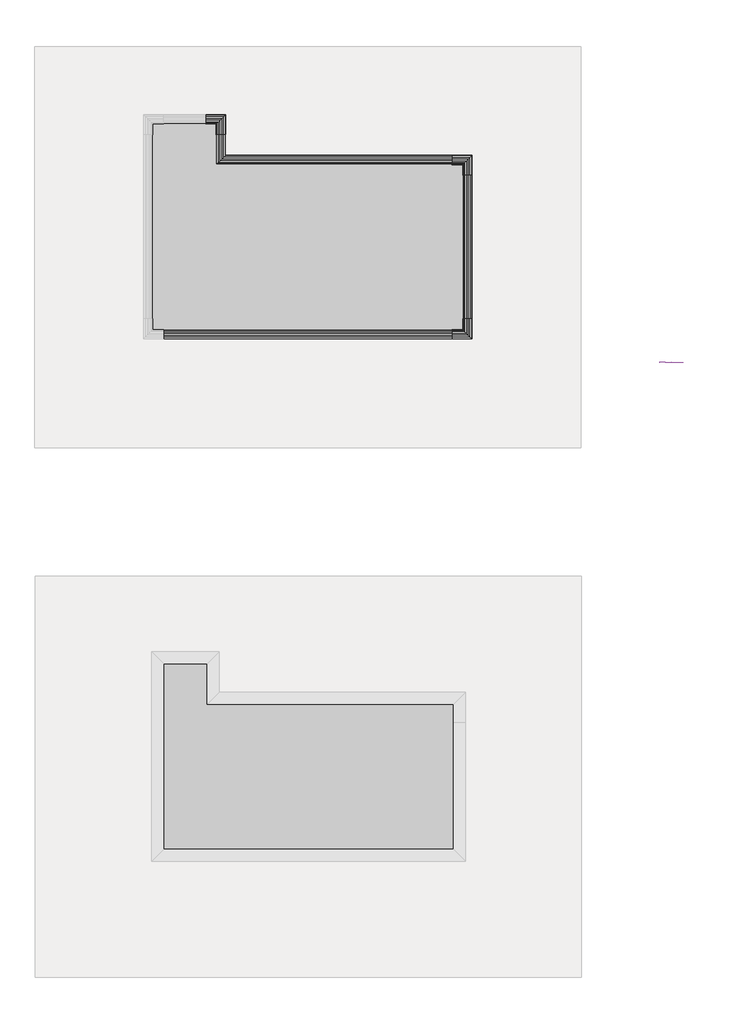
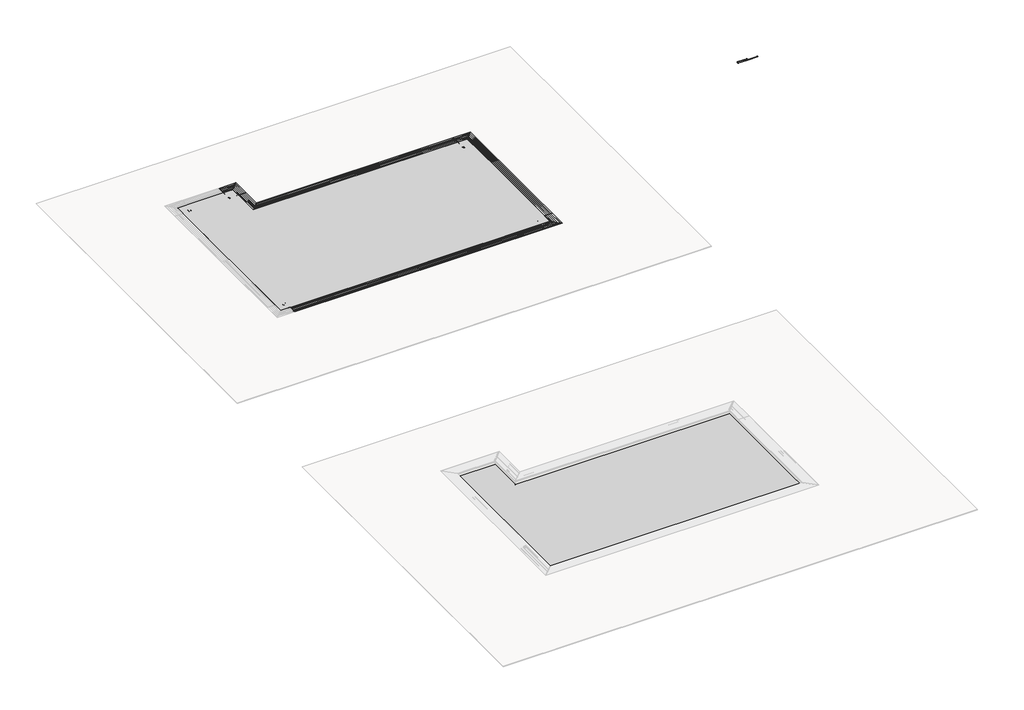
# One storey, part 7 of 8: 26 proxies.
"""IFC4 building model written with IfcOpenShell, lengths in millimetres."""

from ifc_helpers import new_model, si_unit, point, frame, frame_2d, origin, place, context, project, spatial, polyline, circle_curve, ellipse_curve, trimmed, segment, composite_curve, outline, extrude, faceted_brep, transform, mapped, element, save
from ifc_brep_helpers import plane_surface, revolved_surface, advanced_brep
from components import agua_piscina_11_agua_piscina_6_506d59ae, agua_piscina_7_agua_piscina_6_53fddf8e, roca_polar_33x3cm_504bcb03, roca_polar_33x4cm_2db79b40, roca_polar_33x4cm_158b5dbd, roca_polar_33x4cm_2f643e7a, roca_polar_33x4cm_c740a98f, roca_polar_33x4cm_f0a25715, roca_polar_33x4cm_b073b66c, roca_polar_33x4cm_9eef97b5, roca_polar_33x4cm_217610f2, roca_polar_4x4cm_b0f7cce5, roca_polar_angulo_33x33cm_rejilla_24_5x33cm_6b5bcf94

model = new_model("IFC4")

# Units and contexts
model_context = context("Model", 3, world=origin())
ifc_project = project(units=[si_unit("LENGTHUNIT", "METRE", prefix="MILLI")], contexts=[model_context])

# Site, building, storey
site = spatial("IfcSite", under=ifc_project)
building = spatial("IfcBuilding", under=site)
storey = spatial("IfcBuildingStorey", under=building, Name="EXAGRES_Serie ROCA POLAR_Piscinas_ejemplo", Elevation=14000.0)

# Proxies
placement = place(None, origin())
element("IfcBuildingElementProxy", 1, Name="Wall Sweeps", at=placement, inside=storey, context=model_context, shape_type="SweptSolid", body=[
    extrude(outline(polyline([(-5317.8185886, 13800.0), (-5127.8185886, 13800.0), (-5127.8185886, 14000.0), (-5097.8185886, 14000.0), (-5097.8185886, 13750.0), (-5347.8185886, 13750.0), (-5347.8185886, 14000.0), (-5317.8185886, 14000.0), (-5317.8185886, 13800.0)])), frame((14265.8202897, 0.0, 0.0), z_axis=(1.0, 0.0, 0.0), x_axis=(0.0, 1.0, 0.0)), (0.0, 0.0, 1.0), 6752.2),
])
element("IfcBuildingElementProxy", 2, Name="Wall Sweeps", at=placement, inside=storey, context=model_context, shape_type="AdvancedBrep", body=[
    advanced_brep(
    [(14721.9202897, -5147.8185886, 14015.0), (14716.9202897, -5152.8185886, 14015.0), (14701.9202897, -5167.8185886, 14000.0), (14641.9202897, -5227.8185886, 14000.0), (14626.9202897, -5242.8185886, 14015.0), (14621.9202897, -5247.8185886, 14015.0), (14606.9202897, -5262.8185886, 14000.0), (14546.4202897, -5323.3185886, 14000.0), (14546.4202897, -5323.3185886, 14011.0), (14538.9202897, -5330.8185886, 14011.0), (14538.9202897, -5330.8185886, 14000.0), (14526.9202897, -5342.8185886, 14000.0), (14526.9202897, -5342.8185886, 14015.0), (14533.4202897, -5336.3185886, 14030.0), (14572.9202897, -5296.8185886, 14030.0), (14571.9202897, -5297.8185886, 14019.0), (14566.9202897, -5302.8185886, 14019.0), (14566.9202897, -5302.8185886, 14011.0), (14586.9202897, -5282.8185886, 14011.0), (14586.9202897, -5282.8185886, 14019.0), (14581.9202897, -5287.8185886, 14019.0), (14580.9202897, -5288.8185886, 14030.0), (14620.4202897, -5249.3185886, 14030.0), (14620.4202897, -5249.3185886, 14025.0), (14628.4202897, -5241.3185886, 14025.0), (14628.4202897, -5241.3185886, 14030.0), (14667.9202897, -5201.8185886, 14030.0), (14666.9202897, -5202.8185886, 14019.0), (14661.9202897, -5207.8185886, 14019.0), (14661.9202897, -5207.8185886, 14011.0), (14681.9202897, -5187.8185886, 14011.0), (14681.9202897, -5187.8185886, 14019.0), (14676.9202897, -5192.8185886, 14019.0), (14675.9202897, -5193.8185886, 14030.0), (14715.4202897, -5154.3185886, 14030.0), (14715.4202897, -5154.3185886, 14025.0), (14723.4202897, -5146.3185886, 14025.0), (14723.4202897, -5146.3185886, 14030.0), (14762.9202897, -5106.8185886, 14030.0), (14762.9202897, -5106.8185886, 14019.0), (14744.4202897, -5125.3185886, 14019.0), (14744.4202897, -5125.3185886, 14011.0), (14766.9202897, -5102.8185886, 14011.0), (14766.9202897, -5102.8185886, 14000.0), (14736.9202897, -5132.8185886, 14000.0), (21018.0202897, -5147.8185886, 14015.0), (21018.0202897, -5132.8185886, 14000.0), (21018.0202897, -5102.8185886, 14000.0), (21018.0202897, -5102.8185886, 14011.0), (21018.0202897, -5125.3185886, 14011.0), (21018.0202897, -5125.3185886, 14019.0), (21018.0202897, -5106.8185886, 14019.0), (21018.0202897, -5106.8185886, 14030.0), (21018.0202897, -5146.3185886, 14030.0), (21018.0202897, -5146.3185886, 14025.0), (21018.0202897, -5154.3185886, 14025.0), (21018.0202897, -5154.3185886, 14030.0), (21018.0202897, -5193.8185886, 14030.0), (21018.0202897, -5192.8185886, 14019.0), (21018.0202897, -5187.8185886, 14019.0), (21018.0202897, -5187.8185886, 14011.0), (21018.0202897, -5207.8185886, 14011.0), (21018.0202897, -5207.8185886, 14019.0), (21018.0202897, -5202.8185886, 14019.0), (21018.0202897, -5201.8185886, 14030.0), (21018.0202897, -5241.3185886, 14030.0), (21018.0202897, -5241.3185886, 14025.0), (21018.0202897, -5249.3185886, 14025.0), (21018.0202897, -5249.3185886, 14030.0), (21018.0202897, -5288.8185886, 14030.0), (21018.0202897, -5287.8185886, 14019.0), (21018.0202897, -5282.8185886, 14019.0), (21018.0202897, -5282.8185886, 14011.0), (21018.0202897, -5302.8185886, 14011.0), (21018.0202897, -5302.8185886, 14019.0), (21018.0202897, -5297.8185886, 14019.0), (21018.0202897, -5296.8185886, 14030.0), (21018.0202897, -5336.3185886, 14030.0), (21018.0202897, -5342.8185886, 14015.0), (21018.0202897, -5342.8185886, 14000.0), (21018.0202897, -5330.8185886, 14000.0), (21018.0202897, -5330.8185886, 14011.0), (21018.0202897, -5323.3185886, 14011.0), (21018.0202897, -5323.3185886, 14000.0), (21018.0202897, -5262.8185886, 14000.0), (21018.0202897, -5247.8185886, 14015.0), (21018.0202897, -5242.8185886, 14015.0), (21018.0202897, -5227.8185886, 14000.0), (21018.0202897, -5167.8185886, 14000.0), (21018.0202897, -5152.8185886, 14015.0)],
    [
        (0, 1),
        (1, 2, ellipse_curve(frame((14716.9202897, -5152.8185886, 14000.0), z_axis=(0.7071067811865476, -0.7071067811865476, 0.0), x_axis=(0.7071067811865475, 0.7071067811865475, 0.0)), 21.2132034, 15.0)),
        (2, 3),
        (3, 4, ellipse_curve(frame((14626.9202897, -5242.8185886, 14000.0), z_axis=(0.7071067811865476, -0.7071067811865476, 0.0), x_axis=(0.7071067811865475, 0.7071067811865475, 0.0)), 21.2132034, 15.0)),
        (4, 5),
        (5, 6, ellipse_curve(frame((14621.9202897, -5247.8185886, 14000.0), z_axis=(0.7071067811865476, -0.7071067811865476, 0.0), x_axis=(0.7071067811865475, 0.7071067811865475, 0.0)), 21.2132034, 15.0)),
        (6, 7),
        (7, 8),
        (8, 9, ellipse_curve(frame((14542.6702897, -5327.0685886, 14011.0), z_axis=(0.7071067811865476, -0.7071067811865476, 0.0), x_axis=(0.7071067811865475, 0.7071067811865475, 0.0)), 5.3033009, 3.75)),
        (9, 10),
        (10, 11),
        (11, 12),
        (12, 13),
        (13, 14),
        (14, 15),
        (15, 16),
        (16, 17),
        (17, 18),
        (18, 19),
        (19, 20),
        (20, 21),
        (21, 22),
        (22, 23),
        (23, 24),
        (24, 25),
        (25, 26),
        (26, 27),
        (27, 28),
        (28, 29),
        (29, 30),
        (30, 31),
        (31, 32),
        (32, 33),
        (33, 34),
        (34, 35),
        (35, 36),
        (36, 37),
        (37, 38),
        (38, 39),
        (39, 40),
        (40, 41),
        (41, 42),
        (42, 43),
        (43, 44),
        (44, 0, ellipse_curve(frame((14721.9202897, -5147.8185886, 14000.0), z_axis=(0.7071067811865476, -0.7071067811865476, 0.0), x_axis=(0.7071067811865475, 0.7071067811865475, 0.0)), 21.2132034, 15.0)),
        (45, 46, circle_curve(frame((21018.0202897, -5147.8185886, 14000.0), z_axis=(-1.0, 0.0, 0.0), x_axis=(0.0, 1.0, 0.0)), 15.0)),
        (46, 47),
        (47, 48),
        (48, 49),
        (49, 50),
        (50, 51),
        (51, 52),
        (52, 53),
        (53, 54),
        (54, 55),
        (55, 56),
        (56, 57),
        (57, 58),
        (58, 59),
        (59, 60),
        (60, 61),
        (61, 62),
        (62, 63),
        (63, 64),
        (64, 65),
        (65, 66),
        (66, 67),
        (67, 68),
        (68, 69),
        (69, 70),
        (70, 71),
        (71, 72),
        (72, 73),
        (73, 74),
        (74, 75),
        (75, 76),
        (76, 77),
        (77, 78),
        (78, 79),
        (79, 80),
        (80, 81),
        (81, 82, circle_curve(frame((21018.0202897, -5327.0685886, 14011.0), z_axis=(-1.0, 0.0, 0.0), x_axis=(0.0, 1.0, 0.0)), 3.75)),
        (82, 83),
        (83, 84),
        (84, 85, circle_curve(frame((21018.0202897, -5247.8185886, 14000.0), z_axis=(-1.0, 0.0, 0.0), x_axis=(0.0, 0.0, 1.0)), 15.0)),
        (85, 86),
        (86, 87, circle_curve(frame((21018.0202897, -5242.8185886, 14000.0), z_axis=(-1.0, 0.0, 0.0), x_axis=(0.0, 1.0, 0.0)), 15.0)),
        (87, 88),
        (88, 89, circle_curve(frame((21018.0202897, -5152.8185886, 14000.0), z_axis=(-1.0, 0.0, 0.0), x_axis=(0.0, 0.0, 1.0)), 15.0)),
        (89, 45),
        (0, 45),
        (89, 1),
        (88, 2),
        (87, 3),
        (86, 4),
        (85, 5),
        (84, 6),
        (83, 7),
        (82, 8),
        (81, 9),
        (80, 10),
        (79, 11),
        (78, 12),
        (77, 13),
        (76, 14),
        (75, 15),
        (74, 16),
        (73, 17),
        (72, 18),
        (71, 19),
        (70, 20),
        (69, 21),
        (68, 22),
        (67, 23),
        (66, 24),
        (65, 25),
        (64, 26),
        (63, 27),
        (62, 28),
        (61, 29),
        (60, 30),
        (59, 31),
        (58, 32),
        (57, 33),
        (56, 34),
        (55, 35),
        (54, 36),
        (53, 37),
        (52, 38),
        (51, 39),
        (50, 40),
        (49, 41),
        (48, 42),
        (47, 43),
        (46, 44),
    ],
    [
        plane_surface(frame((14241.9202897, -5627.8185886, 13695.2), z_axis=(-0.7071067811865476, 0.7071067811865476, 0.0), x_axis=(0.7071067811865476, 0.7071067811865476, 0.0))),
        plane_surface(frame((21018.0202897, -5627.8185886, 13474.8847745), z_axis=(1.0, 0.0, 0.0), x_axis=(0.0, 1.0, 0.0))),
        plane_surface(frame((14721.9202897, -5147.8185886, 14015.0), z_axis=(0.0, 0.0, -1.0), x_axis=(1.0, 0.0, 0.0))),
        revolved_surface(polyline([(21018.0202897, -5152.8185886, 14015.0), (14701.9202897, -5152.8185886, 14015.0)]), (14241.9202897, -5152.8185886, 14000.0), (1.0, 0.0, 0.0)),
        plane_surface(frame((14701.9202897, -5167.8185886, 14000.0), z_axis=(0.0, 0.0, -1.0), x_axis=(1.0, 0.0, 0.0))),
        revolved_surface(polyline([(21018.0202897, -5227.8185886, 14000.0), (14611.92028972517, -5227.8185886, 14000.0)]), (14241.9202897, -5242.8185886, 14000.0), (1.0, 0.0, 0.0)),
        plane_surface(frame((14626.9202897, -5242.8185886, 14015.0), z_axis=(0.0, 0.0, -1.0), x_axis=(1.0, 0.0, 0.0))),
        revolved_surface(polyline([(21018.0202897, -5247.8185886, 14015.0), (14606.9202897, -5247.8185886, 14015.0)]), (14241.9202897, -5247.8185886, 14000.0), (1.0, 0.0, 0.0)),
        plane_surface(frame((14606.9202897, -5262.8185886, 14000.0), z_axis=(0.0, 0.0, -1.0), x_axis=(1.0, 0.0, 0.0))),
        plane_surface(frame((14546.4202897, -5323.3185886, 14000.0), z_axis=(0.0, -1.0, 0.0), x_axis=(1.0, 0.0, 0.0))),
        revolved_surface(polyline([(21018.0202897, -5323.3185886, 14011.0), (14538.920289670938, -5323.3185886, 14011.0)]), (14241.9202897, -5327.0685886, 14011.0), (1.0, 0.0, 0.0)),
        plane_surface(frame((14538.9202897, -5330.8185886, 14011.0), z_axis=(0.0, 1.0, 0.0), x_axis=(1.0, 0.0, 0.0))),
        plane_surface(frame((14538.9202897, -5330.8185886, 14000.0), z_axis=(0.0, 0.0, -1.0), x_axis=(1.0, 0.0, 0.0))),
        plane_surface(frame((14526.9202897, -5342.8185886, 14000.0), z_axis=(0.0, -1.0, 0.0), x_axis=(1.0, 0.0, 0.0))),
        plane_surface(frame((14526.9202897, -5342.8185886, 14015.0), z_axis=(0.0, -0.9175556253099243, 0.3976074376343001), x_axis=(1.0, 0.0, 0.0))),
        plane_surface(frame((14533.4202897, -5336.3185886, 14030.0), z_axis=(0.0, 0.0, 1.0), x_axis=(1.0, 0.0, 0.0))),
        plane_surface(frame((14572.9202897, -5296.8185886, 14030.0), z_axis=(0.0, 0.9958932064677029, -0.09053574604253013), x_axis=(1.0, 0.0, 0.0))),
        plane_surface(frame((14571.9202897, -5297.8185886, 14019.0), z_axis=(0.0, 0.0, -1.0), x_axis=(1.0, 0.0, 0.0))),
        plane_surface(frame((14566.9202897, -5302.8185886, 14019.0), z_axis=(0.0, 1.0, 0.0), x_axis=(1.0, 0.0, 0.0))),
        plane_surface(frame((14566.9202897, -5302.8185886, 14011.0), z_axis=(0.0, 0.0, 1.0), x_axis=(1.0, 0.0, 0.0))),
        plane_surface(frame((14586.9202897, -5282.8185886, 14011.0), z_axis=(0.0, -1.0, 0.0), x_axis=(1.0, 0.0, 0.0))),
        plane_surface(frame((14586.9202897, -5282.8185886, 14019.0), z_axis=(0.0, 0.0, -1.0), x_axis=(1.0, 0.0, 0.0))),
        plane_surface(frame((14581.9202897, -5287.8185886, 14019.0), z_axis=(0.0, -0.995893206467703, -0.09053574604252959), x_axis=(1.0, 0.0, 0.0))),
        plane_surface(frame((14580.9202897, -5288.8185886, 14030.0), z_axis=(0.0, 0.0, 1.0), x_axis=(1.0, 0.0, 0.0))),
        plane_surface(frame((14620.4202897, -5249.3185886, 14030.0), z_axis=(0.0, 1.0, 0.0), x_axis=(1.0, 0.0, 0.0))),
        plane_surface(frame((14620.4202897, -5249.3185886, 14025.0), z_axis=(0.0, 0.0, 1.0), x_axis=(1.0, 0.0, 0.0))),
        plane_surface(frame((14628.4202897, -5241.3185886, 14025.0), z_axis=(0.0, -1.0, 0.0), x_axis=(1.0, 0.0, 0.0))),
        plane_surface(frame((14628.4202897, -5241.3185886, 14030.0), z_axis=(0.0, 0.0, 1.0), x_axis=(1.0, 0.0, 0.0))),
        plane_surface(frame((14667.9202897, -5201.8185886, 14030.0), z_axis=(0.0, 0.9958932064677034, -0.09053574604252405), x_axis=(1.0, 0.0, 0.0))),
        plane_surface(frame((14666.9202897, -5202.8185886, 14019.0), z_axis=(0.0, 0.0, -1.0), x_axis=(1.0, 0.0, 0.0))),
        plane_surface(frame((14661.9202897, -5207.8185886, 14019.0), z_axis=(0.0, 1.0, 0.0), x_axis=(1.0, 0.0, 0.0))),
        plane_surface(frame((14661.9202897, -5207.8185886, 14011.0), z_axis=(0.0, 0.0, 1.0), x_axis=(1.0, 0.0, 0.0))),
        plane_surface(frame((14681.9202897, -5187.8185886, 14011.0), z_axis=(0.0, -1.0, 0.0), x_axis=(1.0, 0.0, 0.0))),
        plane_surface(frame((14681.9202897, -5187.8185886, 14019.0), z_axis=(0.0, 0.0, -1.0), x_axis=(1.0, 0.0, 0.0))),
        plane_surface(frame((14676.9202897, -5192.8185886, 14019.0), z_axis=(0.0, -0.995893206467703, -0.09053574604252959), x_axis=(1.0, 0.0, 0.0))),
        plane_surface(frame((14675.9202897, -5193.8185886, 14030.0), z_axis=(0.0, 0.0, 1.0), x_axis=(1.0, 0.0, 0.0))),
        plane_surface(frame((14715.4202897, -5154.3185886, 14030.0), z_axis=(0.0, 1.0, 0.0), x_axis=(1.0, 0.0, 0.0))),
        plane_surface(frame((14715.4202897, -5154.3185886, 14025.0), z_axis=(0.0, 0.0, 1.0), x_axis=(1.0, 0.0, 0.0))),
        plane_surface(frame((14723.4202897, -5146.3185886, 14025.0), z_axis=(0.0, -1.0, 0.0), x_axis=(1.0, 0.0, 0.0))),
        plane_surface(frame((14723.4202897, -5146.3185886, 14030.0), z_axis=(0.0, 0.0, 1.0), x_axis=(1.0, 0.0, 0.0))),
        plane_surface(frame((14762.9202897, -5106.8185886, 14030.0), z_axis=(0.0, 1.0, 0.0), x_axis=(1.0, 0.0, 0.0))),
        plane_surface(frame((14762.9202897, -5106.8185886, 14019.0), z_axis=(0.0, 0.0, -1.0), x_axis=(1.0, 0.0, 0.0))),
        plane_surface(frame((14744.4202897, -5125.3185886, 14019.0), z_axis=(0.0, 1.0, 0.0), x_axis=(1.0, 0.0, 0.0))),
        plane_surface(frame((14744.4202897, -5125.3185886, 14011.0), z_axis=(0.0, 0.0, 1.0), x_axis=(1.0, 0.0, 0.0))),
        plane_surface(frame((14766.9202897, -5102.8185886, 14011.0), z_axis=(0.0, 1.0, 0.0), x_axis=(1.0, 0.0, 0.0))),
        plane_surface(frame((14766.9202897, -5102.8185886, 14000.0), z_axis=(0.0, 0.0, -1.0), x_axis=(1.0, 0.0, 0.0))),
        revolved_surface(polyline([(21018.0202897, -5132.8185886, 14000.0), (14706.92028972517, -5132.8185886, 14000.0)]), (14241.9202897, -5147.8185886, 14000.0), (1.0, 0.0, 0.0)),
    ],
    [
        (0, [[1, 2, 3, 4, 5, 6, 7, 8, 9, 10, 11, 12, 13, 14, 15, 16, 17, 18, 19, 20, 21, 22, 23, 24, 25, 26, 27, 28, 29, 30, 31, 32, 33, 34, 35, 36, 37, 38, 39, 40, 41, 42, 43, 44, 45]]),
        (1, [[46, 47, 48, 49, 50, 51, 52, 53, 54, 55, 56, 57, 58, 59, 60, 61, 62, 63, 64, 65, 66, 67, 68, 69, 70, 71, 72, 73, 74, 75, 76, 77, 78, 79, 80, 81, 82, 83, 84, 85, 86, 87, 88, 89, 90]]),
        (2, [[-1, 91, -90, 92]]),
        (3, [[-2, -92, -89, 93]]),
        (4, [[-3, -93, -88, 94]]),
        (5, [[-4, -94, -87, 95]]),
        (6, [[-5, -95, -86, 96]]),
        (7, [[-6, -96, -85, 97]]),
        (8, [[-7, -97, -84, 98]]),
        (9, [[-8, -98, -83, 99]]),
        (10, [[-9, -99, -82, 100]]),
        (11, [[-10, -100, -81, 101]]),
        (12, [[-11, -101, -80, 102]]),
        (13, [[-12, -102, -79, 103]]),
        (14, [[-13, -103, -78, 104]]),
        (15, [[-14, -104, -77, 105]]),
        (16, [[-15, -105, -76, 106]]),
        (17, [[-16, -106, -75, 107]]),
        (18, [[-17, -107, -74, 108]]),
        (19, [[-18, -108, -73, 109]]),
        (20, [[-19, -109, -72, 110]]),
        (21, [[-20, -110, -71, 111]]),
        (22, [[-21, -111, -70, 112]]),
        (23, [[-22, -112, -69, 113]]),
        (24, [[-23, -113, -68, 114]]),
        (25, [[-24, -114, -67, 115]]),
        (26, [[-25, -115, -66, 116]]),
        (27, [[-26, -116, -65, 117]]),
        (28, [[-27, -117, -64, 118]]),
        (29, [[-28, -118, -63, 119]]),
        (30, [[-29, -119, -62, 120]]),
        (31, [[-30, -120, -61, 121]]),
        (32, [[-31, -121, -60, 122]]),
        (33, [[-32, -122, -59, 123]]),
        (34, [[-33, -123, -58, 124]]),
        (35, [[-34, -124, -57, 125]]),
        (36, [[-35, -125, -56, 126]]),
        (37, [[-36, -126, -55, 127]]),
        (38, [[-37, -127, -54, 128]]),
        (39, [[-38, -128, -53, 129]]),
        (40, [[-39, -129, -52, 130]]),
        (41, [[-40, -130, -51, 131]]),
        (42, [[-41, -131, -50, 132]]),
        (43, [[-42, -132, -49, 133]]),
        (44, [[-43, -133, -48, 134]]),
        (45, [[-44, -134, -47, 135]]),
        (46, [[-45, -135, -46, -91]]),
    ],
),
])
element("IfcBuildingElementProxy", 3, Name="Wall Sweeps", at=placement, inside=storey, context=model_context, shape_type="Brep", body=[
    faceted_brep([(14271.9202897, -5597.8185886, 13546.2592037), (14271.9202897, -5597.8185886, 14000.0), (14521.9202897, -5347.8185886, 14000.0), (14521.9202897, -5347.8185886, 13750.0), (14771.9202897, -5097.8185886, 13750.0), (14771.9202897, -5097.8185886, 13644.7108891), (14471.9202897, -5397.8185886, 13546.2592037), (21018.0202897, -5597.8185886, 13546.2592037), (21018.0202897, -5397.8185886, 13546.2592037), (21018.0202897, -5097.8185886, 13644.7108891), (21018.0202897, -5097.8185886, 13750.0), (21018.0202897, -5347.8185886, 13750.0), (21018.0202897, -5347.8185886, 14000.0), (21018.0202897, -5597.8185886, 14000.0), (14771.9202897, -5597.8185886, 14000.0), (14741.9202897, -5597.8185886, 14000.0), (14551.9202897, -5597.8185886, 14000.0), (14521.9202897, -5597.8185886, 14000.0)], [[[0, 1, 2, 3, 4, 5, 6]], [[7, 8, 9, 10, 11, 12, 13]], [[1, 0, 7, 13, 14, 15, 16, 17]], [[2, 1, 17, 16, 15, 14, 13, 12]], [[3, 2, 12, 11]], [[4, 3, 11, 10]], [[5, 4, 10, 9]], [[6, 5, 9, 8]], [[0, 6, 8, 7]]]),
])
element("IfcBuildingElementProxy", 4, Name="Wall Sweeps", at=placement, inside=storey, context=model_context, shape_type="SweptSolid", body=[
    extrude(outline(polyline([(13800.0, 21351.9202897), (14000.0, 21351.9202897), (14000.0, 21321.9202897), (13750.0, 21321.9202897), (13750.0, 21571.9202897), (14000.0, 21571.9202897), (14000.0, 21541.9202897), (13800.0, 21541.9202897), (13800.0, 21351.9202897)])), frame((0.0, -9603.9185886, 0.0), z_axis=(0.0, 1.0, 0.0), x_axis=(0.0, 0.0, 1.0)), (0.0, 0.0, 1.0), 3952.2),
])
element("IfcBuildingElementProxy", 5, Name="Wall Sweeps", at=placement, inside=storey, context=model_context, shape_type="SweptSolid", body=[
    extrude(outline(composite_curve([segment(trimmed(circle_curve(frame_2d((14000.0, 21521.9202897)), 15.0), [point((14015.0, 21521.9202897))], [point((14000.0, 21536.9202897))], True, "CARTESIAN"), True, "CONTINUOUS"), segment(polyline([(14000.0, 21536.9202897), (14000.0, 21566.9202897), (14011.0, 21566.9202897), (14011.0, 21544.4202897), (14019.0, 21544.4202897), (14019.0, 21562.9202897), (14030.0, 21562.9202897), (14030.0, 21523.4202897), (14025.0, 21523.4202897), (14025.0, 21515.4202897), (14030.0, 21515.4202897), (14030.0, 21475.9202897), (14019.0, 21476.9202897), (14019.0, 21481.9202897), (14011.0, 21481.9202897), (14011.0, 21461.9202897), (14019.0, 21461.9202897), (14019.0, 21466.9202897), (14030.0, 21467.9202897), (14030.0, 21428.4202897), (14025.0, 21428.4202897), (14025.0, 21420.4202897), (14030.0, 21420.4202897), (14030.0, 21380.9202897), (14019.0, 21381.9202897), (14019.0, 21386.9202897), (14011.0, 21386.9202897), (14011.0, 21366.9202897), (14019.0, 21366.9202897), (14019.0, 21371.9202897), (14030.0, 21372.9202897), (14030.0, 21333.4202897), (14015.0, 21326.9202897), (14000.0, 21326.9202897), (14000.0, 21338.9202897), (14011.0, 21338.9202897)]), True, "CONTINUOUS"), segment(trimmed(circle_curve(frame_2d((14011.0, 21342.6702897)), 3.75), [point((14011.0, 21338.9202897))], [point((14011.0, 21346.4202897))], True, "CARTESIAN"), True, "CONTINUOUS"), segment(polyline([(14011.0, 21346.4202897), (14000.0, 21346.4202897), (14000.0, 21406.9202897)]), True, "CONTINUOUS"), segment(trimmed(circle_curve(frame_2d((14000.0, 21421.9202897)), 15.0), [point((14000.0, 21406.9202897))], [point((14015.0, 21421.9202897))], True, "CARTESIAN"), True, "CONTINUOUS"), segment(polyline([(14015.0, 21421.9202897), (14015.0, 21426.9202897)]), True, "CONTINUOUS"), segment(trimmed(circle_curve(frame_2d((14000.0, 21426.9202897)), 15.0), [point((14015.0, 21426.9202897))], [point((14000.0, 21441.9202897))], True, "CARTESIAN"), True, "CONTINUOUS"), segment(polyline([(14000.0, 21441.9202897), (14000.0, 21501.9202897)]), True, "CONTINUOUS"), segment(trimmed(circle_curve(frame_2d((14000.0, 21516.9202897)), 15.0), [point((14000.0, 21501.9202897))], [point((14015.0, 21516.9202897))], True, "CARTESIAN"), True, "CONTINUOUS"), segment(polyline([(14015.0, 21516.9202897), (14015.0, 21521.9202897)]), True, "CONTINUOUS")], self_intersect=False)), frame((0.0, -9603.9185886, 0.0), z_axis=(0.0, 1.0, 0.0), x_axis=(0.0, 0.0, 1.0)), (0.0, 0.0, 1.0), 3952.2),
])
element("IfcBuildingElementProxy", 6, Name="Wall Sweeps", at=placement, inside=storey, context=model_context, shape_type="SweptSolid", body=[
    extrude(outline(polyline([(13546.2592037, 21071.9202897), (13546.2592037, 21271.9202897), (13644.7108891, 21571.9202897), (13750.0, 21571.9202897), (13750.0, 21321.9202897), (14000.0, 21321.9202897), (14000.0, 21071.9202897), (13546.2592037, 21071.9202897)])), frame((0.0, -9603.9185886, 0.0), z_axis=(0.0, 1.0, 0.0), x_axis=(0.0, 0.0, 1.0)), (0.0, 0.0, 1.0), 3952.2),
])
element("IfcBuildingElementProxy", 7, Name="Wall Sweeps", at=placement, inside=storey, context=model_context, shape_type="SweptSolid", body=[
    extrude(outline(polyline([(-9937.8185886, 13800.0), (-9937.8185886, 14000.0), (-9907.8185886, 14000.0), (-9907.8185886, 13750.0), (-10157.8185886, 13750.0), (-10157.8185886, 14000.0), (-10127.8185886, 14000.0), (-10127.8185886, 13800.0), (-9937.8185886, 13800.0)])), frame((13065.8202897, 0.0, 0.0), z_axis=(1.0, 0.0, 0.0), x_axis=(0.0, 1.0, 0.0)), (0.0, 0.0, 1.0), 7952.2),
])
element("IfcBuildingElementProxy", 8, Name="Wall Sweeps", at=placement, inside=storey, context=model_context, shape_type="SweptSolid", body=[
    extrude(outline(composite_curve([segment(trimmed(circle_curve(frame_2d((-10107.8185886, 14000.0)), 15.0), [point((-10107.8185886, 14015.0))], [point((-10122.8185886, 14000.0))], True, "CARTESIAN"), True, "CONTINUOUS"), segment(polyline([(-10122.8185886, 14000.0), (-10152.8185886, 14000.0), (-10152.8185886, 14011.0), (-10130.3185886, 14011.0), (-10130.3185886, 14019.0), (-10148.8185886, 14019.0), (-10148.8185886, 14030.0), (-10109.3185886, 14030.0), (-10109.3185886, 14025.0), (-10101.3185886, 14025.0), (-10101.3185886, 14030.0), (-10061.8185886, 14030.0), (-10062.8185886, 14019.0), (-10067.8185886, 14019.0), (-10067.8185886, 14011.0), (-10047.8185886, 14011.0), (-10047.8185886, 14019.0), (-10052.8185886, 14019.0), (-10053.8185886, 14030.0), (-10014.3185886, 14030.0), (-10014.3185886, 14025.0), (-10006.3185886, 14025.0), (-10006.3185886, 14030.0), (-9966.8185886, 14030.0), (-9967.8185886, 14019.0), (-9972.8185886, 14019.0), (-9972.8185886, 14011.0), (-9952.8185886, 14011.0), (-9952.8185886, 14019.0), (-9957.8185886, 14019.0), (-9958.8185886, 14030.0), (-9919.3185886, 14030.0), (-9912.8185886, 14015.0), (-9912.8185886, 14000.0), (-9924.8185886, 14000.0), (-9924.8185886, 14011.0)]), True, "CONTINUOUS"), segment(trimmed(circle_curve(frame_2d((-9928.5685886, 14011.0)), 3.75), [point((-9924.8185886, 14011.0))], [point((-9932.3185886, 14011.0))], True, "CARTESIAN"), True, "CONTINUOUS"), segment(polyline([(-9932.3185886, 14011.0), (-9932.3185886, 14000.0), (-9992.8185886, 14000.0)]), True, "CONTINUOUS"), segment(trimmed(circle_curve(frame_2d((-10007.8185886, 14000.0)), 15.0), [point((-9992.8185886, 14000.0))], [point((-10007.8185886, 14015.0))], True, "CARTESIAN"), True, "CONTINUOUS"), segment(polyline([(-10007.8185886, 14015.0), (-10012.8185886, 14015.0)]), True, "CONTINUOUS"), segment(trimmed(circle_curve(frame_2d((-10012.8185886, 14000.0)), 15.0), [point((-10012.8185886, 14015.0))], [point((-10027.8185886, 14000.0))], True, "CARTESIAN"), True, "CONTINUOUS"), segment(polyline([(-10027.8185886, 14000.0), (-10087.8185886, 14000.0)]), True, "CONTINUOUS"), segment(trimmed(circle_curve(frame_2d((-10102.8185886, 14000.0)), 15.0), [point((-10087.8185886, 14000.0))], [point((-10102.8185886, 14015.0))], True, "CARTESIAN"), True, "CONTINUOUS"), segment(polyline([(-10102.8185886, 14015.0), (-10107.8185886, 14015.0)]), True, "CONTINUOUS")], self_intersect=False)), frame((13065.8202897, 0.0, 0.0), z_axis=(1.0, 0.0, 0.0), x_axis=(0.0, 1.0, 0.0)), (0.0, 0.0, 1.0), 7952.2),
])
element("IfcBuildingElementProxy", 9, Name="Wall Sweeps", at=placement, inside=storey, context=model_context, shape_type="SweptSolid", body=[
    extrude(outline(polyline([(-9657.8185886, 13546.2592037), (-9857.8185886, 13546.2592037), (-10157.8185886, 13644.7108891), (-10157.8185886, 13750.0), (-9907.8185886, 13750.0), (-9907.8185886, 14000.0), (-9657.8185886, 14000.0), (-9657.8185886, 13546.2592037)])), frame((13065.8202897, 0.0, 0.0), z_axis=(1.0, 0.0, 0.0), x_axis=(0.0, 1.0, 0.0)), (0.0, 0.0, 1.0), 7952.2),
])
element("IfcBuildingElementProxy", 10, Name="Wall Sweeps", at=placement, inside=storey, context=model_context, shape_type="AdvancedBrep", body=[
    advanced_brep(
    [(14721.9202897, -5147.8185886, 14015.0), (14736.9202897, -5132.8185886, 14000.0), (14766.9202897, -5102.8185886, 14000.0), (14766.9202897, -5102.8185886, 14011.0), (14744.4202897, -5125.3185886, 14011.0), (14744.4202897, -5125.3185886, 14019.0), (14762.9202897, -5106.8185886, 14019.0), (14762.9202897, -5106.8185886, 14030.0), (14723.4202897, -5146.3185886, 14030.0), (14723.4202897, -5146.3185886, 14025.0), (14715.4202897, -5154.3185886, 14025.0), (14715.4202897, -5154.3185886, 14030.0), (14675.9202897, -5193.8185886, 14030.0), (14676.9202897, -5192.8185886, 14019.0), (14681.9202897, -5187.8185886, 14019.0), (14681.9202897, -5187.8185886, 14011.0), (14661.9202897, -5207.8185886, 14011.0), (14661.9202897, -5207.8185886, 14019.0), (14666.9202897, -5202.8185886, 14019.0), (14667.9202897, -5201.8185886, 14030.0), (14628.4202897, -5241.3185886, 14030.0), (14628.4202897, -5241.3185886, 14025.0), (14620.4202897, -5249.3185886, 14025.0), (14620.4202897, -5249.3185886, 14030.0), (14580.9202897, -5288.8185886, 14030.0), (14581.9202897, -5287.8185886, 14019.0), (14586.9202897, -5282.8185886, 14019.0), (14586.9202897, -5282.8185886, 14011.0), (14566.9202897, -5302.8185886, 14011.0), (14566.9202897, -5302.8185886, 14019.0), (14571.9202897, -5297.8185886, 14019.0), (14572.9202897, -5296.8185886, 14030.0), (14533.4202897, -5336.3185886, 14030.0), (14526.9202897, -5342.8185886, 14015.0), (14526.9202897, -5342.8185886, 14000.0), (14538.9202897, -5330.8185886, 14000.0), (14538.9202897, -5330.8185886, 14011.0), (14546.4202897, -5323.3185886, 14011.0), (14546.4202897, -5323.3185886, 14000.0), (14606.9202897, -5262.8185886, 14000.0), (14621.9202897, -5247.8185886, 14015.0), (14626.9202897, -5242.8185886, 14015.0), (14641.9202897, -5227.8185886, 14000.0), (14701.9202897, -5167.8185886, 14000.0), (14716.9202897, -5152.8185886, 14015.0), (14721.9202897, -4531.7197013, 14015.0), (14716.9202897, -4531.7197013, 14015.0), (14701.9202897, -4531.7197013, 14000.0), (14641.9202897, -4531.7197013, 14000.0), (14626.9202897, -4531.7197013, 14015.0), (14621.9202897, -4531.7197013, 14015.0), (14606.9202897, -4531.7197013, 14000.0), (14546.4202897, -4531.7197013, 14000.0), (14546.4202897, -4531.7197013, 14011.0), (14538.9202897, -4531.7197013, 14011.0), (14538.9202897, -4531.7197013, 14000.0), (14526.9202897, -4531.7197013, 14000.0), (14526.9202897, -4531.7197013, 14015.0), (14533.4202897, -4531.7197013, 14030.0), (14572.9202897, -4531.7197013, 14030.0), (14571.9202897, -4531.7197013, 14019.0), (14566.9202897, -4531.7197013, 14019.0), (14566.9202897, -4531.7197013, 14011.0), (14586.9202897, -4531.7197013, 14011.0), (14586.9202897, -4531.7197013, 14019.0), (14581.9202897, -4531.7197013, 14019.0), (14580.9202897, -4531.7197013, 14030.0), (14620.4202897, -4531.7197013, 14030.0), (14620.4202897, -4531.7197013, 14025.0), (14628.4202897, -4531.7197013, 14025.0), (14628.4202897, -4531.7197013, 14030.0), (14667.9202897, -4531.7197013, 14030.0), (14666.9202897, -4531.7197013, 14019.0), (14661.9202897, -4531.7197013, 14019.0), (14661.9202897, -4531.7197013, 14011.0), (14681.9202897, -4531.7197013, 14011.0), (14681.9202897, -4531.7197013, 14019.0), (14676.9202897, -4531.7197013, 14019.0), (14675.9202897, -4531.7197013, 14030.0), (14715.4202897, -4531.7197013, 14030.0), (14715.4202897, -4531.7197013, 14025.0), (14723.4202897, -4531.7197013, 14025.0), (14723.4202897, -4531.7197013, 14030.0), (14762.9202897, -4531.7197013, 14030.0), (14762.9202897, -4531.7197013, 14019.0), (14744.4202897, -4531.7197013, 14019.0), (14744.4202897, -4531.7197013, 14011.0), (14766.9202897, -4531.7197013, 14011.0), (14766.9202897, -4531.7197013, 14000.0), (14736.9202897, -4531.7197013, 14000.0)],
    [
        (0, 1, ellipse_curve(frame((14721.9202897, -5147.8185886, 14000.0), z_axis=(-0.7071067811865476, 0.7071067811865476, 0.0), x_axis=(0.7071067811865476, 0.7071067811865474, 0.0)), 21.2132034, 15.0)),
        (1, 2),
        (2, 3),
        (3, 4),
        (4, 5),
        (5, 6),
        (6, 7),
        (7, 8),
        (8, 9),
        (9, 10),
        (10, 11),
        (11, 12),
        (12, 13),
        (13, 14),
        (14, 15),
        (15, 16),
        (16, 17),
        (17, 18),
        (18, 19),
        (19, 20),
        (20, 21),
        (21, 22),
        (22, 23),
        (23, 24),
        (24, 25),
        (25, 26),
        (26, 27),
        (27, 28),
        (28, 29),
        (29, 30),
        (30, 31),
        (31, 32),
        (32, 33),
        (33, 34),
        (34, 35),
        (35, 36),
        (36, 37, ellipse_curve(frame((14542.6702897, -5327.0685886, 14011.0), z_axis=(-0.7071067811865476, 0.7071067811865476, 0.0), x_axis=(0.7071067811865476, 0.7071067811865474, 0.0)), 5.3033009, 3.75)),
        (37, 38),
        (38, 39),
        (39, 40, ellipse_curve(frame((14621.9202897, -5247.8185886, 14000.0), z_axis=(-0.7071067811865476, 0.7071067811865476, 0.0), x_axis=(0.7071067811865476, 0.7071067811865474, 0.0)), 21.2132034, 15.0)),
        (40, 41),
        (41, 42, ellipse_curve(frame((14626.9202897, -5242.8185886, 14000.0), z_axis=(-0.7071067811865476, 0.7071067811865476, 0.0), x_axis=(0.7071067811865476, 0.7071067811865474, 0.0)), 21.2132034, 15.0)),
        (42, 43),
        (43, 44, ellipse_curve(frame((14716.9202897, -5152.8185886, 14000.0), z_axis=(-0.7071067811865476, 0.7071067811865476, 0.0), x_axis=(0.7071067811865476, 0.7071067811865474, 0.0)), 21.2132034, 15.0)),
        (44, 0),
        (45, 46),
        (46, 47, circle_curve(frame((14716.9202897, -4531.7197013, 14000.0), z_axis=(0.0, -1.0, 0.0), x_axis=(0.0, 0.0, 1.0)), 15.0)),
        (47, 48),
        (48, 49, circle_curve(frame((14626.9202897, -4531.7197013, 14000.0), z_axis=(0.0, -1.0, 0.0), x_axis=(1.0, 0.0, 0.0)), 15.0)),
        (49, 50),
        (50, 51, circle_curve(frame((14621.9202897, -4531.7197013, 14000.0), z_axis=(0.0, -1.0, 0.0), x_axis=(0.0, 0.0, 1.0)), 15.0)),
        (51, 52),
        (52, 53),
        (53, 54, circle_curve(frame((14542.6702897, -4531.7197013, 14011.0), z_axis=(0.0, -1.0, 0.0), x_axis=(1.0, 0.0, 0.0)), 3.75)),
        (54, 55),
        (55, 56),
        (56, 57),
        (57, 58),
        (58, 59),
        (59, 60),
        (60, 61),
        (61, 62),
        (62, 63),
        (63, 64),
        (64, 65),
        (65, 66),
        (66, 67),
        (67, 68),
        (68, 69),
        (69, 70),
        (70, 71),
        (71, 72),
        (72, 73),
        (73, 74),
        (74, 75),
        (75, 76),
        (76, 77),
        (77, 78),
        (78, 79),
        (79, 80),
        (80, 81),
        (81, 82),
        (82, 83),
        (83, 84),
        (84, 85),
        (85, 86),
        (86, 87),
        (87, 88),
        (88, 89),
        (89, 45, circle_curve(frame((14721.9202897, -4531.7197013, 14000.0), z_axis=(0.0, -1.0, 0.0), x_axis=(1.0, 0.0, 0.0)), 15.0)),
        (0, 45),
        (89, 1),
        (88, 2),
        (87, 3),
        (86, 4),
        (85, 5),
        (84, 6),
        (83, 7),
        (82, 8),
        (81, 9),
        (80, 10),
        (79, 11),
        (78, 12),
        (77, 13),
        (76, 14),
        (75, 15),
        (74, 16),
        (73, 17),
        (72, 18),
        (71, 19),
        (70, 20),
        (69, 21),
        (68, 22),
        (67, 23),
        (66, 24),
        (65, 25),
        (64, 26),
        (63, 27),
        (62, 28),
        (61, 29),
        (60, 30),
        (59, 31),
        (58, 32),
        (57, 33),
        (56, 34),
        (55, 35),
        (54, 36),
        (53, 37),
        (52, 38),
        (51, 39),
        (50, 40),
        (49, 41),
        (48, 42),
        (47, 43),
        (46, 44),
    ],
    [
        plane_surface(frame((14241.9202897, -5627.8185886, 14304.8), z_axis=(0.7071067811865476, -0.7071067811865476, 0.0), x_axis=(0.7071067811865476, 0.7071067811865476, 0.0))),
        plane_surface(frame((13716.8050643, -4531.7197013, 14000.0), z_axis=(0.0, 1.0, 0.0), x_axis=(0.0, 0.0, 1.0))),
        revolved_surface(polyline([(14736.9202897, -4531.7197013, 14000.0), (14736.9202897, -5162.81858857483, 14000.0)]), (14721.9202897, -5627.8185886, 14000.0), (0.0, 1.0, 0.0)),
        plane_surface(frame((14736.9202897, -5132.8185886, 14000.0), z_axis=(0.0, 0.0, -1.0), x_axis=(0.0, 1.0, 0.0))),
        plane_surface(frame((14766.9202897, -5102.8185886, 14000.0), z_axis=(1.0, 0.0, 0.0), x_axis=(0.0, 1.0, 0.0))),
        plane_surface(frame((14766.9202897, -5102.8185886, 14011.0), z_axis=(0.0, 0.0, 1.0), x_axis=(0.0, 1.0, 0.0))),
        plane_surface(frame((14744.4202897, -5125.3185886, 14011.0), z_axis=(1.0, 0.0, 0.0), x_axis=(0.0, 1.0, 0.0))),
        plane_surface(frame((14744.4202897, -5125.3185886, 14019.0), z_axis=(0.0, 0.0, -1.0), x_axis=(0.0, 1.0, 0.0))),
        plane_surface(frame((14762.9202897, -5106.8185886, 14019.0), z_axis=(1.0, 0.0, 0.0), x_axis=(0.0, 1.0, 0.0))),
        plane_surface(frame((14762.9202897, -5106.8185886, 14030.0), z_axis=(0.0, 0.0, 1.0), x_axis=(0.0, 1.0, 0.0))),
        plane_surface(frame((14723.4202897, -5146.3185886, 14030.0), z_axis=(-1.0, 0.0, 0.0), x_axis=(0.0, 1.0, 0.0))),
        plane_surface(frame((14723.4202897, -5146.3185886, 14025.0), z_axis=(0.0, 0.0, 1.0), x_axis=(0.0, 1.0, 0.0))),
        plane_surface(frame((14715.4202897, -5154.3185886, 14025.0), z_axis=(1.0, 0.0, 0.0), x_axis=(0.0, 1.0, 0.0))),
        plane_surface(frame((14715.4202897, -5154.3185886, 14030.0), z_axis=(0.0, 0.0, 1.0), x_axis=(0.0, 1.0, 0.0))),
        plane_surface(frame((14675.9202897, -5193.8185886, 14030.0), z_axis=(-0.995893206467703, 0.0, -0.09053574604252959), x_axis=(0.0, 1.0, 0.0))),
        plane_surface(frame((14676.9202897, -5192.8185886, 14019.0), z_axis=(0.0, 0.0, -1.0), x_axis=(0.0, 1.0, 0.0))),
        plane_surface(frame((14681.9202897, -5187.8185886, 14019.0), z_axis=(-1.0, 0.0, 0.0), x_axis=(0.0, 1.0, 0.0))),
        plane_surface(frame((14681.9202897, -5187.8185886, 14011.0), z_axis=(0.0, 0.0, 1.0), x_axis=(0.0, 1.0, 0.0))),
        plane_surface(frame((14661.9202897, -5207.8185886, 14011.0), z_axis=(1.0, 0.0, 0.0), x_axis=(0.0, 1.0, 0.0))),
        plane_surface(frame((14661.9202897, -5207.8185886, 14019.0), z_axis=(0.0, 0.0, -1.0), x_axis=(0.0, 1.0, 0.0))),
        plane_surface(frame((14666.9202897, -5202.8185886, 14019.0), z_axis=(0.9958932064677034, 0.0, -0.09053574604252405), x_axis=(0.0, 1.0, 0.0))),
        plane_surface(frame((14667.9202897, -5201.8185886, 14030.0), z_axis=(0.0, 0.0, 1.0), x_axis=(0.0, 1.0, 0.0))),
        plane_surface(frame((14628.4202897, -5241.3185886, 14030.0), z_axis=(-1.0, 0.0, 0.0), x_axis=(0.0, 1.0, 0.0))),
        plane_surface(frame((14628.4202897, -5241.3185886, 14025.0), z_axis=(0.0, 0.0, 1.0), x_axis=(0.0, 1.0, 0.0))),
        plane_surface(frame((14620.4202897, -5249.3185886, 14025.0), z_axis=(1.0, 0.0, 0.0), x_axis=(0.0, 1.0, 0.0))),
        plane_surface(frame((14620.4202897, -5249.3185886, 14030.0), z_axis=(0.0, 0.0, 1.0), x_axis=(0.0, 1.0, 0.0))),
        plane_surface(frame((14580.9202897, -5288.8185886, 14030.0), z_axis=(-0.995893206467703, 0.0, -0.09053574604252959), x_axis=(0.0, 1.0, 0.0))),
        plane_surface(frame((14581.9202897, -5287.8185886, 14019.0), z_axis=(0.0, 0.0, -1.0), x_axis=(0.0, 1.0, 0.0))),
        plane_surface(frame((14586.9202897, -5282.8185886, 14019.0), z_axis=(-1.0, 0.0, 0.0), x_axis=(0.0, 1.0, 0.0))),
        plane_surface(frame((14586.9202897, -5282.8185886, 14011.0), z_axis=(0.0, 0.0, 1.0), x_axis=(0.0, 1.0, 0.0))),
        plane_surface(frame((14566.9202897, -5302.8185886, 14011.0), z_axis=(1.0, 0.0, 0.0), x_axis=(0.0, 1.0, 0.0))),
        plane_surface(frame((14566.9202897, -5302.8185886, 14019.0), z_axis=(0.0, 0.0, -1.0), x_axis=(0.0, 1.0, 0.0))),
        plane_surface(frame((14571.9202897, -5297.8185886, 14019.0), z_axis=(0.9958932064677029, 0.0, -0.09053574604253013), x_axis=(0.0, 1.0, 0.0))),
        plane_surface(frame((14572.9202897, -5296.8185886, 14030.0), z_axis=(0.0, 0.0, 1.0), x_axis=(0.0, 1.0, 0.0))),
        plane_surface(frame((14533.4202897, -5336.3185886, 14030.0), z_axis=(-0.9175556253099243, 0.0, 0.3976074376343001), x_axis=(0.0, 1.0, 0.0))),
        plane_surface(frame((14526.9202897, -5342.8185886, 14015.0), z_axis=(-1.0, 0.0, 0.0), x_axis=(0.0, 1.0, 0.0))),
        plane_surface(frame((14526.9202897, -5342.8185886, 14000.0), z_axis=(0.0, 0.0, -1.0), x_axis=(0.0, 1.0, 0.0))),
        plane_surface(frame((14538.9202897, -5330.8185886, 14000.0), z_axis=(1.0, 0.0, 0.0), x_axis=(0.0, 1.0, 0.0))),
        revolved_surface(polyline([(14546.4202897, -4531.7197013, 14011.0), (14546.4202897, -5330.818588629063, 14011.0)]), (14542.6702897, -5627.8185886, 14011.0), (0.0, 1.0, 0.0)),
        plane_surface(frame((14546.4202897, -5323.3185886, 14011.0), z_axis=(-1.0, 0.0, 0.0), x_axis=(0.0, 1.0, 0.0))),
        plane_surface(frame((14546.4202897, -5323.3185886, 14000.0), z_axis=(0.0, 0.0, -1.0), x_axis=(0.0, 1.0, 0.0))),
        revolved_surface(polyline([(14621.9202897, -4531.7197013, 14015.0), (14621.9202897, -5262.8185886, 14015.0)]), (14621.9202897, -5627.8185886, 14000.0), (0.0, 1.0, 0.0)),
        plane_surface(frame((14621.9202897, -5247.8185886, 14015.0), z_axis=(0.0, 0.0, -1.0), x_axis=(0.0, 1.0, 0.0))),
        revolved_surface(polyline([(14641.9202897, -4531.7197013, 14000.0), (14641.9202897, -5257.81858857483, 14000.0)]), (14626.9202897, -5627.8185886, 14000.0), (0.0, 1.0, 0.0)),
        plane_surface(frame((14641.9202897, -5227.8185886, 14000.0), z_axis=(0.0, 0.0, -1.0), x_axis=(0.0, 1.0, 0.0))),
        revolved_surface(polyline([(14716.9202897, -4531.7197013, 14015.0), (14716.9202897, -5167.8185886, 14015.0)]), (14716.9202897, -5627.8185886, 14000.0), (0.0, 1.0, 0.0)),
        plane_surface(frame((14716.9202897, -5152.8185886, 14015.0), z_axis=(0.0, 0.0, -1.0), x_axis=(0.0, 1.0, 0.0))),
    ],
    [
        (0, [[1, 2, 3, 4, 5, 6, 7, 8, 9, 10, 11, 12, 13, 14, 15, 16, 17, 18, 19, 20, 21, 22, 23, 24, 25, 26, 27, 28, 29, 30, 31, 32, 33, 34, 35, 36, 37, 38, 39, 40, 41, 42, 43, 44, 45]]),
        (1, [[46, 47, 48, 49, 50, 51, 52, 53, 54, 55, 56, 57, 58, 59, 60, 61, 62, 63, 64, 65, 66, 67, 68, 69, 70, 71, 72, 73, 74, 75, 76, 77, 78, 79, 80, 81, 82, 83, 84, 85, 86, 87, 88, 89, 90]]),
        (2, [[-1, 91, -90, 92]]),
        (3, [[-2, -92, -89, 93]]),
        (4, [[-3, -93, -88, 94]]),
        (5, [[-4, -94, -87, 95]]),
        (6, [[-5, -95, -86, 96]]),
        (7, [[-6, -96, -85, 97]]),
        (8, [[-7, -97, -84, 98]]),
        (9, [[-8, -98, -83, 99]]),
        (10, [[-9, -99, -82, 100]]),
        (11, [[-10, -100, -81, 101]]),
        (12, [[-11, -101, -80, 102]]),
        (13, [[-12, -102, -79, 103]]),
        (14, [[-13, -103, -78, 104]]),
        (15, [[-14, -104, -77, 105]]),
        (16, [[-15, -105, -76, 106]]),
        (17, [[-16, -106, -75, 107]]),
        (18, [[-17, -107, -74, 108]]),
        (19, [[-18, -108, -73, 109]]),
        (20, [[-19, -109, -72, 110]]),
        (21, [[-20, -110, -71, 111]]),
        (22, [[-21, -111, -70, 112]]),
        (23, [[-22, -112, -69, 113]]),
        (24, [[-23, -113, -68, 114]]),
        (25, [[-24, -114, -67, 115]]),
        (26, [[-25, -115, -66, 116]]),
        (27, [[-26, -116, -65, 117]]),
        (28, [[-27, -117, -64, 118]]),
        (29, [[-28, -118, -63, 119]]),
        (30, [[-29, -119, -62, 120]]),
        (31, [[-30, -120, -61, 121]]),
        (32, [[-31, -121, -60, 122]]),
        (33, [[-32, -122, -59, 123]]),
        (34, [[-33, -123, -58, 124]]),
        (35, [[-34, -124, -57, 125]]),
        (36, [[-35, -125, -56, 126]]),
        (37, [[-36, -126, -55, 127]]),
        (38, [[-37, -127, -54, 128]]),
        (39, [[-38, -128, -53, 129]]),
        (40, [[-39, -129, -52, 130]]),
        (41, [[-40, -130, -51, 131]]),
        (42, [[-41, -131, -50, 132]]),
        (43, [[-42, -132, -49, 133]]),
        (44, [[-43, -133, -48, 134]]),
        (45, [[-44, -134, -47, 135]]),
        (46, [[-45, -135, -46, -91]]),
    ],
),
])
agua_piscina_11_agua_piscina_6_shape = agua_piscina_11_agua_piscina_6_506d59ae(model_context)
element("IfcBuildingElementProxy", 11, Name="Agua Piscina_11 : Agua Piscina_6", ObjectType="Agua Piscina_11 : Agua Piscina_6", at=placement, inside=storey, context=model_context, shape_type="MappedRepresentation", body=[
    mapped(agua_piscina_11_agua_piscina_6_shape, transform((19798.8472661, -4905.9501305, 0.0), x_axis=(0.0, -1.0, 0.0), y_axis=(1.0, 0.0, 0.0), z_axis=(0.0, 0.0, 1.0))),
])
agua_piscina_7_agua_piscina_6_shape = agua_piscina_7_agua_piscina_6_53fddf8e(model_context)
element("IfcBuildingElementProxy", 12, Name="Agua Piscina_7 : Agua Piscina_6", ObjectType="Agua Piscina_7 : Agua Piscina_6", at=placement, inside=storey, context=model_context, shape_type="MappedRepresentation", body=[
    mapped(agua_piscina_7_agua_piscina_6_shape, transform((40770.5958223, 9225.1010824, 0.0), x_axis=(0.0, -1.0, 0.0), y_axis=(1.0, 0.0, 0.0), z_axis=(0.0, 0.0, 1.0))),
])
roca_polar_33x3cm_shape = roca_polar_33x3cm_504bcb03(model_context)
element("IfcBuildingElementProxy", 13, Name="EXAGRES - Piscina Arista : Roca_Polar_33x3cm", ObjectType="EXAGRES - Piscina Arista : Roca_Polar_33x3cm", at=placement, inside=storey, context=model_context, shape_type="MappedRepresentation", body=[
    mapped(roca_polar_33x3cm_shape, transform((27397.844275, -10799.7277813, 18000.0), x_axis=(-1.0, 0.0, 0.0), y_axis=(0.0, -1.0, 0.0), z_axis=(0.0, 0.0, 1.0))),
])
roca_polar_33x4cm_shape = roca_polar_33x4cm_2db79b40(model_context)
element("IfcBuildingElementProxy", 14, Name="EXAGRES - Piscina Mediacaña : Roca_Polar_33x4cm", ObjectType="EXAGRES - Piscina Mediacaña : Roca_Polar_33x4cm", at=placement, inside=storey, context=model_context, shape_type="MappedRepresentation", body=[
    mapped(roca_polar_33x4cm_shape, transform((26752.844275, -10799.7277813, 18000.0), x_axis=(1.0, 0.0, 0.0), y_axis=(0.0, 1.0, 0.0), z_axis=(0.0, 0.0, 1.0))),
])
roca_polar_33x4cm_2_shape = roca_polar_33x4cm_158b5dbd(model_context)
element("IfcBuildingElementProxy", 15, Name="EXAGRES - Piscina Mediacaña : Roca_Polar_33x4cm", ObjectType="EXAGRES - Piscina Mediacaña : Roca_Polar_33x4cm", at=placement, inside=storey, context=model_context, shape_type="MappedRepresentation", body=[
    mapped(roca_polar_33x4cm_2_shape, transform((19041.9202897, -9627.8185886, 12500.0), x_axis=(-0.9701425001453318, 0.0, 0.2425356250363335), y_axis=(0.0, -1.0, 0.0), z_axis=(0.24253562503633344, 0.0, 0.9701425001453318))),
])
roca_polar_33x4cm_3_shape = roca_polar_33x4cm_2f643e7a(model_context)
element("IfcBuildingElementProxy", 16, Name="EXAGRES - Piscina Mediacaña : Roca_Polar_33x4cm", ObjectType="EXAGRES - Piscina Mediacaña : Roca_Polar_33x4cm", at=placement, inside=storey, context=model_context, shape_type="MappedRepresentation", body=[
    mapped(roca_polar_33x4cm_3_shape, transform((21041.9202897, -9627.8185886, 12500.0), x_axis=(-1.0, 0.0, 0.0), y_axis=(0.0, -1.0, 0.0), z_axis=(0.0, 0.0, 1.0))),
])
roca_polar_33x4cm_4_shape = roca_polar_33x4cm_c740a98f(model_context)
element("IfcBuildingElementProxy", 17, Name="EXAGRES - Piscina Mediacaña : Roca_Polar_33x4cm", ObjectType="EXAGRES - Piscina Mediacaña : Roca_Polar_33x4cm", at=placement, inside=storey, context=model_context, shape_type="MappedRepresentation", body=[
    mapped(roca_polar_33x4cm_4_shape, transform((21041.9214025, -9627.8185886, 12500.0), x_axis=(0.0, 0.0, 1.0), y_axis=(1.0, 0.0, 0.0), z_axis=(0.0, 1.0, 0.0))),
])
roca_polar_33x4cm_5_shape = roca_polar_33x4cm_f0a25715(model_context)
element("IfcBuildingElementProxy", 18, Name="EXAGRES - Piscina Mediacaña : Roca_Polar_33x4cm", ObjectType="EXAGRES - Piscina Mediacaña : Roca_Polar_33x4cm", at=placement, inside=storey, context=model_context, shape_type="MappedRepresentation", body=[
    mapped(roca_polar_33x4cm_5_shape, transform((19041.9202897, -5627.8185886, 12500.0), x_axis=(1.0, 0.0, 0.0), y_axis=(0.0, 1.0, 0.0), z_axis=(0.0, 0.0, 1.0))),
])
roca_polar_33x4cm_6_shape = roca_polar_33x4cm_b073b66c(model_context)
element("IfcBuildingElementProxy", 19, Name="EXAGRES - Piscina Mediacaña : Roca_Polar_33x4cm", ObjectType="EXAGRES - Piscina Mediacaña : Roca_Polar_33x4cm", at=placement, inside=storey, context=model_context, shape_type="MappedRepresentation", body=[
    mapped(roca_polar_33x4cm_6_shape, transform((14241.9202897, -4507.8185886, 13900.0), x_axis=(0.0, 0.0, 1.0), y_axis=(0.0, 1.0, 0.0), z_axis=(-1.0, 0.0, 0.0))),
])
roca_polar_33x4cm_7_shape = roca_polar_33x4cm_9eef97b5(model_context)
element("IfcBuildingElementProxy", 20, Name="EXAGRES - Piscina Mediacaña : Roca_Polar_33x4cm", ObjectType="EXAGRES - Piscina Mediacaña : Roca_Polar_33x4cm", at=placement, inside=storey, context=model_context, shape_type="MappedRepresentation", body=[
    mapped(roca_polar_33x4cm_7_shape, transform((21041.9202897, -5627.8174758, 12500.0), x_axis=(0.0, 0.0, 1.0), y_axis=(0.0, 1.0, 0.0), z_axis=(-1.0, 0.0, 0.0))),
])
roca_polar_33x4cm_8_shape = roca_polar_33x4cm_217610f2(model_context)
element("IfcBuildingElementProxy", 21, Name="EXAGRES - Piscina Mediacaña : Roca_Polar_33x4cm", ObjectType="EXAGRES - Piscina Mediacaña : Roca_Polar_33x4cm", at=placement, inside=storey, context=model_context, shape_type="MappedRepresentation", body=[
    mapped(roca_polar_33x4cm_8_shape, transform((21041.9202897, -9627.8185886, 12500.0), x_axis=(0.0, 1.0, 0.0), y_axis=(0.0, 0.0, -1.0), z_axis=(-1.0, 0.0, 0.0))),
])
roca_polar_4x4cm_shape = roca_polar_4x4cm_b0f7cce5(model_context)
element("IfcBuildingElementProxy", 22, Name="EXAGRES - Piscina Uña : Roca_Polar_4x4cm", ObjectType="EXAGRES - Piscina Uña : Roca_Polar_4x4cm", at=placement, inside=storey, context=model_context, shape_type="MappedRepresentation", body=[
    mapped(roca_polar_4x4cm_shape, transform((21041.9202897, -5627.8185886, 12500.0), x_axis=(0.0, -1.0, 0.0), y_axis=(1.0, 0.0, 0.0), z_axis=(0.0, 0.0, 1.0))),
])
element("IfcBuildingElementProxy", 23, Name="EXAGRES - Piscina Uña : Roca_Polar_4x4cm", ObjectType="EXAGRES - Piscina Uña : Roca_Polar_4x4cm", at=placement, inside=storey, context=model_context, shape_type="MappedRepresentation", body=[
    mapped(roca_polar_4x4cm_shape, transform((21041.9202897, -9627.8185886, 12500.0), x_axis=(-1.0, 0.0, 0.0), y_axis=(0.0, -1.0, 0.0), z_axis=(0.0, 0.0, 1.0))),
])
roca_polar_angulo_33x33cm_rejilla_24_5x33cm_shape = roca_polar_angulo_33x33cm_rejilla_24_5x33cm_6b5bcf94(model_context)
element("IfcBuildingElementProxy", 24, Name="EXAGRES - Coronación Ángulo desbordante : Roca_Polar_Angulo_33x33cm _Rejilla_24.5x33cm", ObjectType="EXAGRES - Coronación Ángulo desbordante : Roca_Polar_Angulo_33x33cm _Rejilla_24.5x33cm", at=placement, inside=storey, context=model_context, shape_type="MappedRepresentation", body=[
    mapped(roca_polar_angulo_33x33cm_rejilla_24_5x33cm_shape, transform((21041.9202897, -5627.8185886, 14000.0), x_axis=(0.9999999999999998, 0.0, 0.0), y_axis=(0.0, 0.9999999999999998, 0.0), z_axis=(0.0, 0.0, 1.0))),
])
element("IfcBuildingElementProxy", 25, Name="EXAGRES - Coronación Ángulo desbordante : Roca_Polar_Angulo_33x33cm _Rejilla_24.5x33cm", ObjectType="EXAGRES - Coronación Ángulo desbordante : Roca_Polar_Angulo_33x33cm _Rejilla_24.5x33cm", at=placement, inside=storey, context=model_context, shape_type="MappedRepresentation", body=[
    mapped(roca_polar_angulo_33x33cm_rejilla_24_5x33cm_shape, transform((21041.9202897, -9627.8185886, 14000.0), x_axis=(0.0, -1.0000000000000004, 0.0), y_axis=(1.0000000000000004, 0.0, 0.0), z_axis=(0.0, 0.0, 1.0))),
])
element("IfcBuildingElementProxy", 26, Name="EXAGRES - Coronación Ángulo desbordante : Roca_Polar_Angulo_33x33cm _Rejilla_24.5x33cm", ObjectType="EXAGRES - Coronación Ángulo desbordante : Roca_Polar_Angulo_33x33cm _Rejilla_24.5x33cm", at=placement, inside=storey, context=model_context, shape_type="MappedRepresentation", body=[
    mapped(roca_polar_angulo_33x33cm_rejilla_24_5x33cm_shape, transform((14241.9202897, -4507.8197013, 14000.0), x_axis=(1.0, 0.0, 0.0), y_axis=(0.0, 1.0, 0.0), z_axis=(0.0, 0.0, 1.0))),
])

save(model, "model.ifc")
